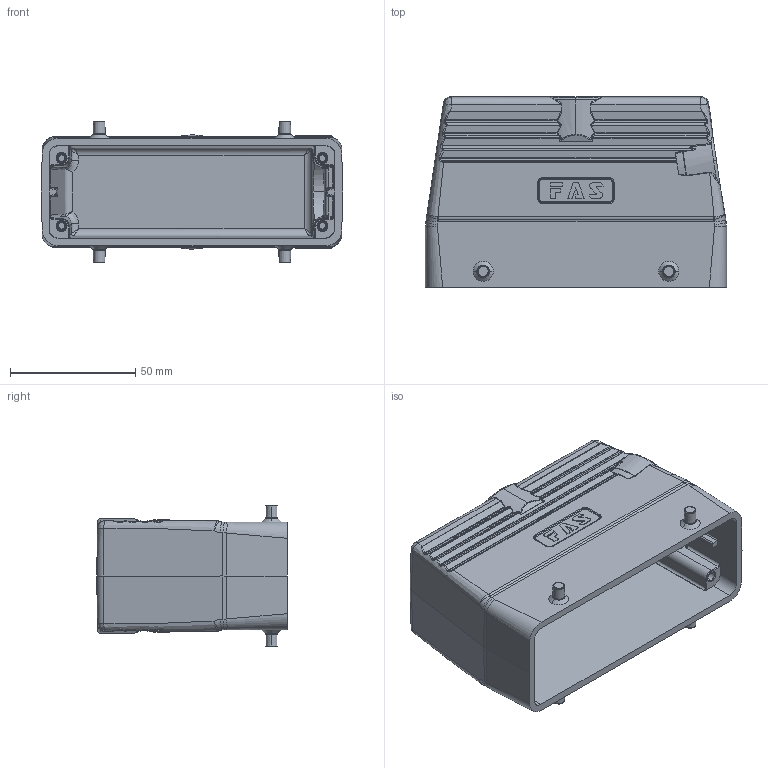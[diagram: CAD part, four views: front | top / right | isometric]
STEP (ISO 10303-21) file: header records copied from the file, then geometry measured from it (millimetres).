
FILE_DESCRIPTION (( 'STEP AP203' ), '1' );
FILE_NAME ('H24B-TSH-M25&32&40.STEP', '2020-11-21T06:06:49', ( '' ), ( '' ), 'SwSTEP 2.0', 'SolidWorks 2016', '' );
FILE_SCHEMA (( 'CONFIG_CONTROL_DESIGN' ));
Products named in the file (1): H24B-TSH-M25&32&40
Bounding box: 120 x 76 x 56.4 mm (x, y, z)
Volume: 110214.6 mm3; surface area: 51891.5 mm2
Topology: 1 solids, 1 shells, 639 faces, 1578 edges, 959 vertices
Faces by surface type: bspline 244, cylinder 195, plane 145, cone 55
Entity records: 30261 total; most frequent: CARTESIAN_POINT 17389, ORIENTED_EDGE 3150, DIRECTION 2007, EDGE_CURVE 1575, VERTEX_POINT 959, AXIS2_PLACEMENT_3D 737, EDGE_LOOP 662, ADVANCED_FACE 639
